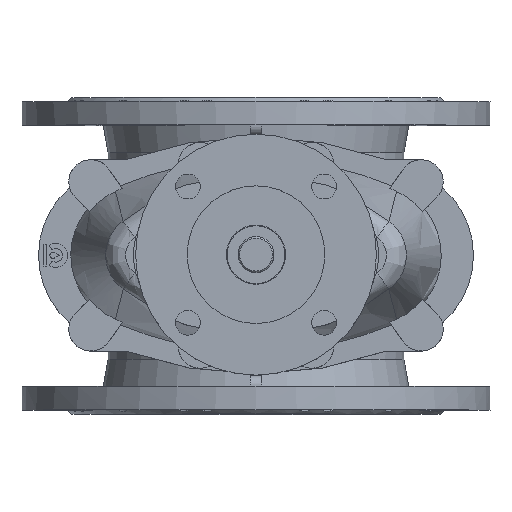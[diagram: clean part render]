
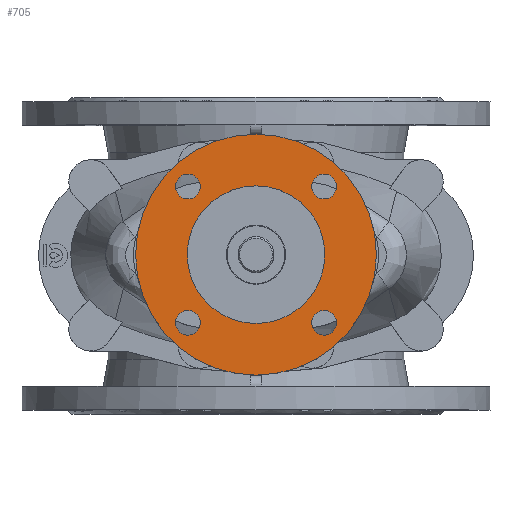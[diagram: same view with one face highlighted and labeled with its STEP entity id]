
A CAD part, top view. The second image highlights one B-rep face of the part: STEP entity #705.
In plain terms, the highlighted planar face has unit normal (0, 0, 1).
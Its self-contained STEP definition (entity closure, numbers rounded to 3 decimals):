
#705=ADVANCED_FACE('',(#3195,#3197,#3199,#3201,#3203,#3205),#3207,.T.);
#3195=FACE_BOUND('',#3196,.T.);
#3196=EDGE_LOOP('',(#5894));
#3197=FACE_BOUND('',#3198,.T.);
#3198=EDGE_LOOP('',(#5895));
#3199=FACE_BOUND('',#3200,.T.);
#3200=EDGE_LOOP('',(#5896));
#3201=FACE_BOUND('',#3202,.T.);
#3202=EDGE_LOOP('',(#5897));
#3203=FACE_BOUND('',#3204,.T.);
#3204=EDGE_LOOP('',(#5898));
#3205=FACE_BOUND('',#3206,.T.);
#3206=EDGE_LOOP('',(#5899));
#3207=PLANE('',#3208);
#3208=AXIS2_PLACEMENT_3D('',#3209,#3210,#3211);
#3209=CARTESIAN_POINT('',(0.,0.,558.5));
#3210=DIRECTION('',(0.,0.,1.));
#3211=DIRECTION('',(-1.,0.,0.));
#5894=ORIENTED_EDGE('',*,*,#7366,.F.);
#5895=ORIENTED_EDGE('',*,*,#7367,.T.);
#5896=ORIENTED_EDGE('',*,*,#7368,.T.);
#5897=ORIENTED_EDGE('',*,*,#7369,.T.);
#5898=ORIENTED_EDGE('',*,*,#7372,.T.);
#5899=ORIENTED_EDGE('',*,*,#7370,.T.);
#7366=EDGE_CURVE('',#8314,#8314,#8315,.T.);
#7367=EDGE_CURVE('',#8316,#8316,#8317,.F.);
#7368=EDGE_CURVE('',#8318,#8318,#8319,.F.);
#7369=EDGE_CURVE('',#8320,#8320,#8321,.F.);
#7370=EDGE_CURVE('',#8322,#8322,#8323,.F.);
#7372=EDGE_CURVE('',#8326,#8326,#8327,.T.);
#8314=VERTEX_POINT('',#10574);
#8315=CIRCLE('',#10575,87.5);
#8316=VERTEX_POINT('',#10579);
#8317=CIRCLE('',#10580,9.);
#8318=VERTEX_POINT('',#10584);
#8319=CIRCLE('',#10585,9.);
#8320=VERTEX_POINT('',#10589);
#8321=CIRCLE('',#10590,9.);
#8322=VERTEX_POINT('',#10594);
#8323=CIRCLE('',#10595,9.);
#8326=VERTEX_POINT('',#10604);
#8327=CIRCLE('',#10605,50.);
#10574=CARTESIAN_POINT('',(-87.5,0.,558.5));
#10575=AXIS2_PLACEMENT_3D('',#10576,#10577,#10578);
#10576=CARTESIAN_POINT('',(0.,0.,558.5));
#10577=DIRECTION('',(0.,0.,-1.));
#10578=DIRECTION('',(-1.,0.,0.));
#10579=CARTESIAN_POINT('',(49.497,-40.497,558.5));
#10580=AXIS2_PLACEMENT_3D('',#10581,#10582,#10583);
#10581=CARTESIAN_POINT('',(49.497,-49.497,558.5));
#10582=DIRECTION('',(0.,0.,1.));
#10583=DIRECTION('',(0.,1.,0.));
#10584=CARTESIAN_POINT('',(-40.497,-49.497,558.5));
#10585=AXIS2_PLACEMENT_3D('',#10586,#10587,#10588);
#10586=CARTESIAN_POINT('',(-49.497,-49.497,558.5));
#10587=DIRECTION('',(0.,0.,1.));
#10588=DIRECTION('',(1.,0.,0.));
#10589=CARTESIAN_POINT('',(-49.497,40.497,558.5));
#10590=AXIS2_PLACEMENT_3D('',#10591,#10592,#10593);
#10591=CARTESIAN_POINT('',(-49.497,49.497,558.5));
#10592=DIRECTION('',(0.,0.,1.));
#10593=DIRECTION('',(0.,-1.,0.));
#10594=CARTESIAN_POINT('',(40.497,49.497,558.5));
#10595=AXIS2_PLACEMENT_3D('',#10596,#10597,#10598);
#10596=CARTESIAN_POINT('',(49.497,49.497,558.5));
#10597=DIRECTION('',(0.,0.,1.));
#10598=DIRECTION('',(-1.,0.,0.));
#10604=CARTESIAN_POINT('',(-50.,0.,558.5));
#10605=AXIS2_PLACEMENT_3D('',#10606,#10607,#10608);
#10606=CARTESIAN_POINT('',(0.,0.,558.5));
#10607=DIRECTION('',(0.,0.,-1.));
#10608=DIRECTION('',(-1.,0.,0.));
